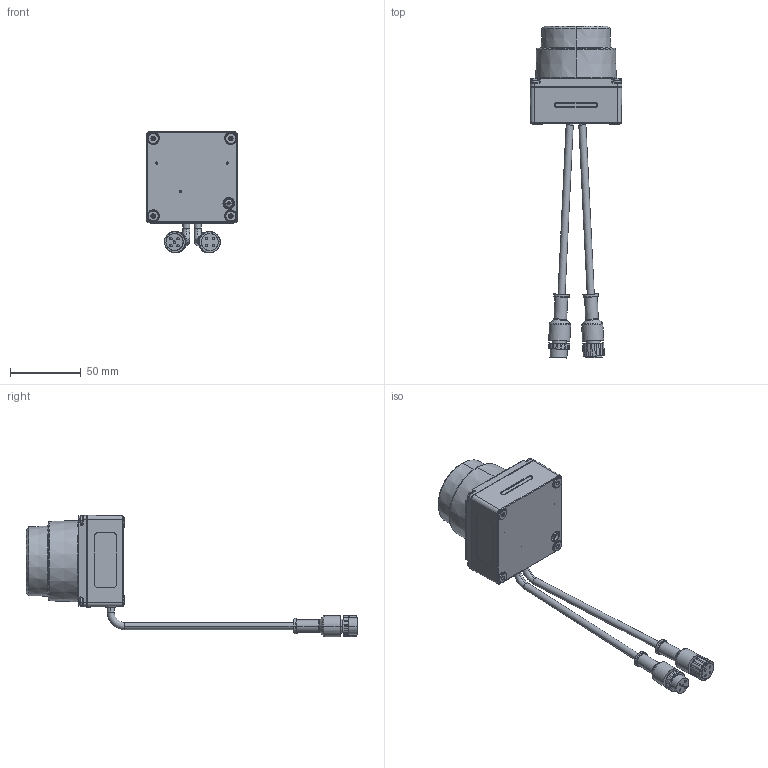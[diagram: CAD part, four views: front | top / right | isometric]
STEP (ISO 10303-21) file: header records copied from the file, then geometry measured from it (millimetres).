
FILE_DESCRIPTION(/* description */ (''),/* implementation_level */ '2;1');
FILE_NAME(/* name */ 'Olei Step.stp',/* time_stamp */ '2024-02-06T08:56:48+01:00',/* author */ (''),/* organization */ (''),/* preprocessor_version */ 'ST-DEVELOPER v16.701',/* originating_system */ 'SIEMENS PLM Software NX 1946',/* authorisation */ '');
FILE_SCHEMA (('AUTOMOTIVE_DESIGN { 1 0 10303 214 3 1 1 1 }'));
Products named in the file (1): SGra066CB345fazc
Bounding box: 64.99 x 234.99 x 85.99 mm (x, y, z)
Surface area: 63176.1 mm2
Topology: 1 solids, 2596 shells, 2598 faces, 12845 edges, 12754 vertices
Faces by surface type: plane 820, cylinder 678, bspline 419, cone 333, torus 286, sphere 62
Full cylindrical faces by diameter (mm): 30.451 x1
Entity records: 171398 total; most frequent: CARTESIAN_POINT 59712, DIRECTION 16109, ORIENTED_EDGE 12756, VERTEX_POINT 12754, EDGE_CURVE 12754, LINE 5605, VECTOR 5605, AXIS2_PLACEMENT_3D 5252
